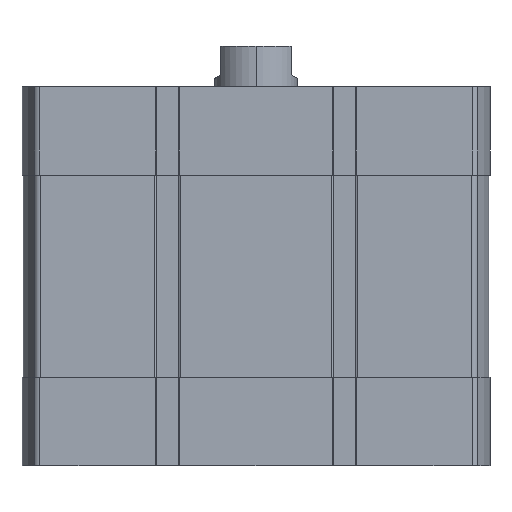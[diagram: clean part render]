
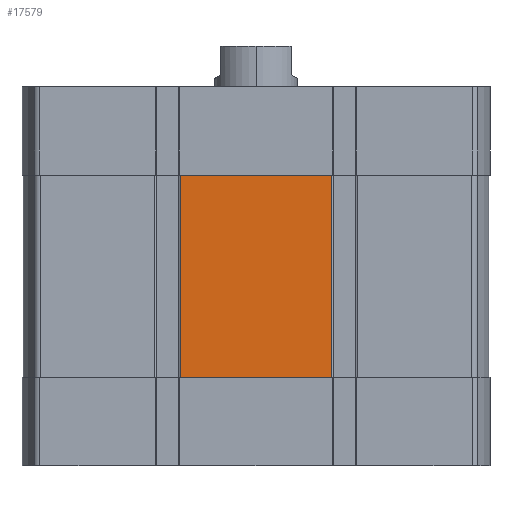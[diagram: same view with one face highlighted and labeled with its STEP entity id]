
A CAD part, left-side view. The second image highlights one B-rep face of the part: STEP entity #17579.
In plain terms, the highlighted planar face has unit normal (-1, 0, 0).
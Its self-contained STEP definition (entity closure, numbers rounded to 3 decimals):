
#634 = DIRECTION ( 'NONE',  ( 0., -1., 0. ) ) ;
#1307 = DIRECTION ( 'NONE',  ( 0., 0., 1. ) ) ;
#1510 = EDGE_CURVE ( 'NONE', #3488, #20020, #3936, .T. ) ;
#1563 = AXIS2_PLACEMENT_3D ( 'NONE', #19449, #13295, #5377 ) ;
#1846 = EDGE_CURVE ( 'NONE', #17383, #3814, #6820, .T. ) ;
#3488 = VERTEX_POINT ( 'NONE', #8633 ) ;
#3814 = VERTEX_POINT ( 'NONE', #18999 ) ;
#3909 = DIRECTION ( 'NONE',  ( 0., 0., 1. ) ) ;
#3936 = LINE ( 'NONE', #13309, #9838 ) ;
#4591 = EDGE_CURVE ( 'NONE', #3814, #20020, #14716, .T. ) ;
#5377 = DIRECTION ( 'NONE',  ( 0., 0., 1. ) ) ;
#5776 = CARTESIAN_POINT ( 'NONE',  ( -56.5, -18.345, -70.5 ) ) ;
#6257 = ORIENTED_EDGE ( 'NONE', *, *, #1510, .F. ) ;
#6820 = LINE ( 'NONE', #19545, #13307 ) ;
#7024 = FACE_OUTER_BOUND ( 'NONE', #19269, .T. ) ;
#8043 = VECTOR ( 'NONE', #3909, 1000. ) ;
#8633 = CARTESIAN_POINT ( 'NONE',  ( -56.5, 18.345, -21.5 ) ) ;
#9313 = ORIENTED_EDGE ( 'NONE', *, *, #4591, .T. ) ;
#9698 = CARTESIAN_POINT ( 'NONE',  ( -56.5, 18.345, -70.5 ) ) ;
#9838 = VECTOR ( 'NONE', #16589, 1000. ) ;
#11952 = CARTESIAN_POINT ( 'NONE',  ( -56.5, -18.345, -21.5 ) ) ;
#13295 = DIRECTION ( 'NONE',  ( -1., 0., 0. ) ) ;
#13307 = VECTOR ( 'NONE', #634, 1000. ) ;
#13309 = CARTESIAN_POINT ( 'NONE',  ( -56.5, 18.345, -21.5 ) ) ;
#14412 = EDGE_CURVE ( 'NONE', #17383, #3488, #16934, .T. ) ;
#14716 = LINE ( 'NONE', #5776, #8043 ) ;
#16589 = DIRECTION ( 'NONE',  ( 0., -1., 0. ) ) ;
#16934 = LINE ( 'NONE', #17136, #19884 ) ;
#17136 = CARTESIAN_POINT ( 'NONE',  ( -56.5, 18.345, -70.5 ) ) ;
#17383 = VERTEX_POINT ( 'NONE', #9698 ) ;
#17579 = ADVANCED_FACE ( 'NONE', ( #7024 ), #19661, .T. ) ;
#18579 = ORIENTED_EDGE ( 'NONE', *, *, #14412, .F. ) ;
#18999 = CARTESIAN_POINT ( 'NONE',  ( -56.5, -18.345, -70.5 ) ) ;
#19117 = ORIENTED_EDGE ( 'NONE', *, *, #1846, .T. ) ;
#19269 = EDGE_LOOP ( 'NONE', ( #6257, #18579, #19117, #9313 ) ) ;
#19449 = CARTESIAN_POINT ( 'NONE',  ( -56.5, 18.345, -70.5 ) ) ;
#19545 = CARTESIAN_POINT ( 'NONE',  ( -56.5, 18.345, -70.5 ) ) ;
#19661 = PLANE ( 'NONE',  #1563 ) ;
#19884 = VECTOR ( 'NONE', #1307, 1000. ) ;
#20020 = VERTEX_POINT ( 'NONE', #11952 ) ;
